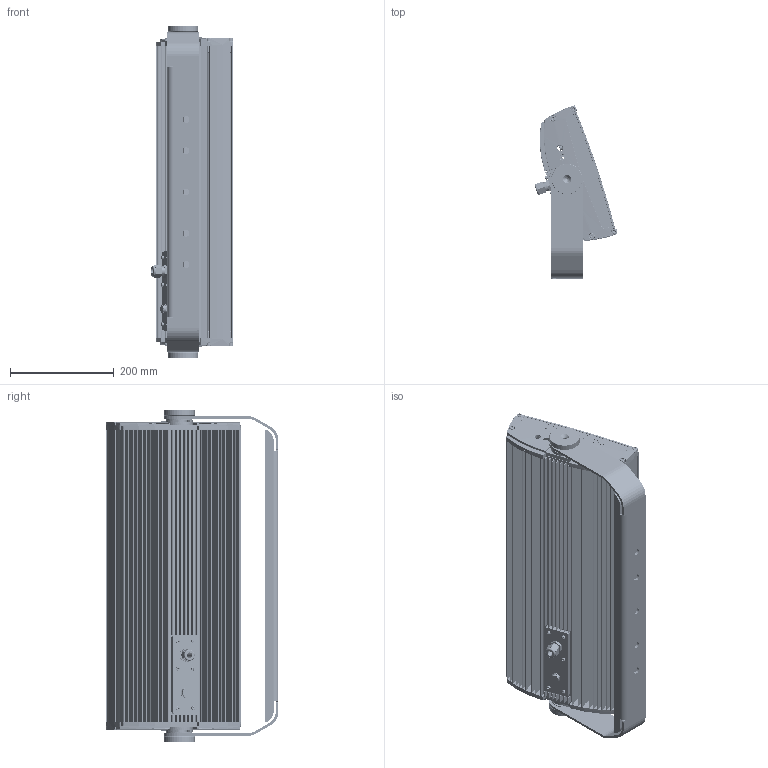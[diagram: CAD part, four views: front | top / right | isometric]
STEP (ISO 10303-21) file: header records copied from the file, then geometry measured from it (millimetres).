
FILE_DESCRIPTION(/* description */ ('','CAx-IF Rec.Pracs.---Representation and Presentation of Product Manufacturing Information (PMI)---4.0---2014-10-13'),/* implementation_level */ '2;1');
FILE_NAME(/* name */ '211000 - MEGAWHITE 66 M PLUGIN.stp',/* time_stamp */ '2026-06-24T13:03:24+02:00',/* author */ ('vilfredomariaricci'),/* organization */ (''),/* preprocessor_version */ 'ST-DEVELOPER v20',/* originating_system */ 'Autodesk Inventor 2025',/* authorisation */ '');
FILE_SCHEMA (('AP242_MANAGED_MODEL_BASED_3D_ENGINEERING_MIM_LF { 1 0 10303 442 1 1 4 }'));
Products named in the file (55): 211000 - MEGAWHITE 66 M PLUGIN; 211000-BASE-00; 211000-010-00; 211000-010-00_1; 211000-013-00; 211000-013-00_1; 211000-TESTA-00; 211000-001-00; 211000-001-00_1; 211000-011-00; 211000-011-00_1; 211000-014-00; Vite_TCEI_AF_4,8x22; 211000-012-00; 211000-026-00; 211000-ELETTRONICA; 211000-015-00; 211000-015-00_1; FH-M3-10 ZI; F-M5-2; FH-M4-10 ZI; BSO-M3-12 ZI; CIRCUITO-MP-SPD10KV-UL; CIRCUITO-MP-SPD10KV-UL_1; ISO 7045 - M3 x 6 - 4.8 - Z; CIRCUITO-MEGAWHITE30-RDM; CIRCUITO-MEGAWHITE30-RDM_1; LED; LENTE KING BRITE; CESTELLO KING BRITE; LENTE KING BRITE_1; Distanziale FF M3x15; UNI 5931 - M 5 x  10; UNI 6592 - 5,3 x 10; 211000-016-00; 211000-016-00_1; ISO 7046-1 - M3 x 6; XLG-240-3D; ELG-150-C_1_ASM; CASE_ASM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
Assembly tree (213 placements, depth 7):
  211000 - MEGAWHITE 66 M PLUGIN
    211000-BASE-00
      211000-010-00
        211000-010-00_1
      211000-013-00  x2
        211000-013-00_1
    211000-TESTA-00
      211000-001-00
        211000-001-00_1
      211000-011-00  x2
        211000-011-00_1
        211000-014-00
        Vite_TCEI_AF_4,8x22
        211000-012-00
      211000-026-00
      211000-ELETTRONICA
        211000-015-00
          211000-015-00_1
          FH-M3-10 ZI  x29
          F-M5-2  x8
          FH-M4-10 ZI  x4
          BSO-M3-12 ZI  x3
        CIRCUITO-MP-SPD10KV-UL
          CIRCUITO-MP-SPD10KV-UL_1
          ISO 7045 - M3 x 6 - 4.8 - Z  x3
        CIRCUITO-MEGAWHITE30-RDM  x2
          CIRCUITO-MEGAWHITE30-RDM_1
          LED
          LENTE KING BRITE
            CESTELLO KING BRITE
            LENTE KING BRITE_1
          Distanziale FF M3x15
        UNI 5931 - M 5 x  10  x8
        UNI 6592 - 5,3 x 10  x8
        211000-016-00
          211000-016-00_1
          ISO 7046-1 - M3 x 6  x24
        XLG-240-3D
          ELG-150-C_1_ASM
            CASE_ASM
              237E-D
              237A-T
            WIRE_ASM
              IP_1_1
              OP_1_2
              OP2
          VRSAI
      211000-PIASTRINO CONNETTORI
        211000-008-00
          211000-008-00_1
          FH-M4-12 ZI
        Tappo Valvolina Anticondensa
        PG 11
        211000-009-00
        UNI 5931 - M 4 x  10  x6
Bounding box: 159.93 x 333.43 x 641 mm (x, y, z)
Volume: 4709339.1 mm3; surface area: 3398742.4 mm2
Topology: 332 solids, 332 shells, 11672 faces, 28598 edges, 18590 vertices
Faces by surface type: plane 6359, cylinder 2947, cone 1225, bspline 650, torus 429, sphere 62
Full cylindrical faces by diameter (mm): 0.2 x120, 1 x120, 1.2 x240, 2.3 x6, 2.459 x27, 2.6 x3, 2.693 x24, 2.729 x3, 3 x85, 3.1 x29, 3.2 x5, 3.242 x6, 3.5 x2, 3.8 x3, 4 x16, 4.1 x5, 4.134 x8, 4.2 x9, 4.5 x16, 4.6 x29, 4.76 x24, 4.8 x8, 5 x11, 5.3 x8, 5.4 x35, 5.5 x32, 5.6 x24, 5.9 x5, 6 x64, 6.2 x6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
Entity records: 116380 total; most frequent: CARTESIAN_POINT 28319, DIRECTION 18621, ORIENTED_EDGE 17160, EDGE_CURVE 8580, AXIS2_PLACEMENT_3D 7097, VERTEX_POINT 5541, LINE 4427, VECTOR 4427
